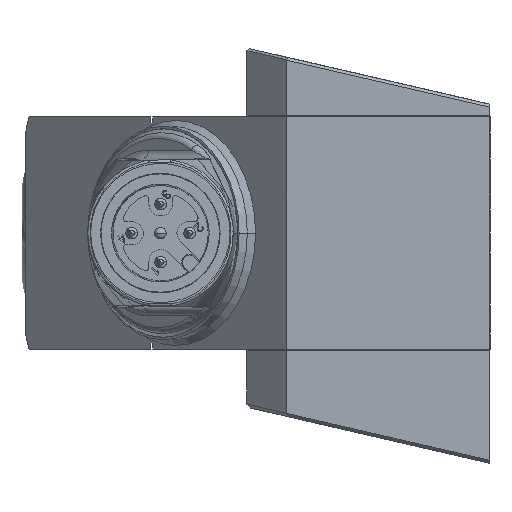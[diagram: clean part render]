
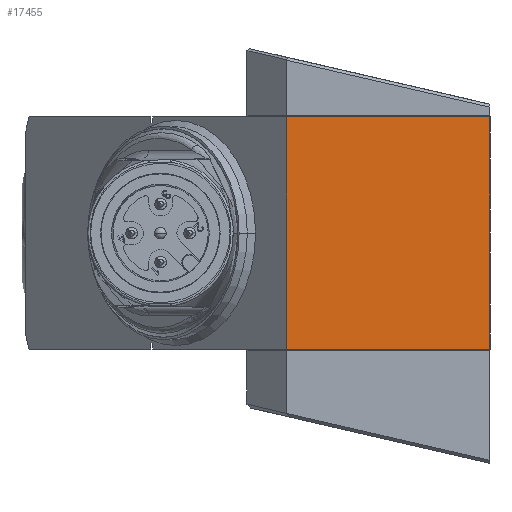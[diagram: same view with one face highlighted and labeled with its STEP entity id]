
A CAD part, left-side view. The second image highlights one B-rep face of the part: STEP entity #17455.
In plain terms, the highlighted planar face has unit normal (-1, 0, 0).
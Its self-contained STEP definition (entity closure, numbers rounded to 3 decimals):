
#718 = PLANE ( 'NONE',  #71194 ) ;
#2185 = DIRECTION ( 'NONE',  ( 1., 0., 0. ) ) ;
#2881 = DIRECTION ( 'NONE',  ( 0., 0., -1. ) ) ;
#5400 = VECTOR ( 'NONE', #2881, 1000. ) ;
#5865 = DIRECTION ( 'NONE',  ( 0., -1., 0. ) ) ;
#7328 = EDGE_CURVE ( 'NONE', #67106, #26709, #15723, .T. ) ;
#12535 = VECTOR ( 'NONE', #5865, 1000. ) ;
#13472 = CARTESIAN_POINT ( 'NONE',  ( 0., 1.491, -10. ) ) ;
#14597 = ORIENTED_EDGE ( 'NONE', *, *, #17105, .T. ) ;
#14855 = EDGE_CURVE ( 'NONE', #60302, #26709, #34940, .T. ) ;
#15669 = EDGE_CURVE ( 'NONE', #31493, #67106, #18346, .T. ) ;
#15723 = LINE ( 'NONE', #45132, #29662 ) ;
#17105 = EDGE_CURVE ( 'NONE', #60302, #31493, #72250, .T. ) ;
#17455 = ADVANCED_FACE ( 'NONE', ( #53049 ), #718, .F. ) ;
#18346 = LINE ( 'NONE', #22318, #48022 ) ;
#22318 = CARTESIAN_POINT ( 'NONE',  ( 0., 19., -10. ) ) ;
#26709 = VERTEX_POINT ( 'NONE', #38062 ) ;
#29662 = VECTOR ( 'NONE', #62705, 1000. ) ;
#30597 = DIRECTION ( 'NONE',  ( 0., -1., 0. ) ) ;
#31493 = VERTEX_POINT ( 'NONE', #61785 ) ;
#33922 = ORIENTED_EDGE ( 'NONE', *, *, #7328, .T. ) ;
#34940 = LINE ( 'NONE', #58231, #12535 ) ;
#35653 = CARTESIAN_POINT ( 'NONE',  ( 0., 19., 10. ) ) ;
#36227 = CARTESIAN_POINT ( 'NONE',  ( 0., 19., 10. ) ) ;
#37373 = DIRECTION ( 'NONE',  ( 0., 1., 0. ) ) ;
#38062 = CARTESIAN_POINT ( 'NONE',  ( 0., 1.491, 10. ) ) ;
#38778 = CARTESIAN_POINT ( 'NONE',  ( 0., 19., 10. ) ) ;
#44783 = EDGE_LOOP ( 'NONE', ( #33922, #53105, #14597, #70735 ) ) ;
#45132 = CARTESIAN_POINT ( 'NONE',  ( 0., 1.491, 10. ) ) ;
#48022 = VECTOR ( 'NONE', #30597, 1000. ) ;
#53049 = FACE_OUTER_BOUND ( 'NONE', #44783, .T. ) ;
#53105 = ORIENTED_EDGE ( 'NONE', *, *, #14855, .F. ) ;
#58231 = CARTESIAN_POINT ( 'NONE',  ( 0., 19., 10. ) ) ;
#60302 = VERTEX_POINT ( 'NONE', #35653 ) ;
#61785 = CARTESIAN_POINT ( 'NONE',  ( 0., 19., -10. ) ) ;
#62705 = DIRECTION ( 'NONE',  ( 0., 0., 1. ) ) ;
#67106 = VERTEX_POINT ( 'NONE', #13472 ) ;
#70735 = ORIENTED_EDGE ( 'NONE', *, *, #15669, .T. ) ;
#71194 = AXIS2_PLACEMENT_3D ( 'NONE', #36227, #2185, #37373 ) ;
#72250 = LINE ( 'NONE', #38778, #5400 ) ;
